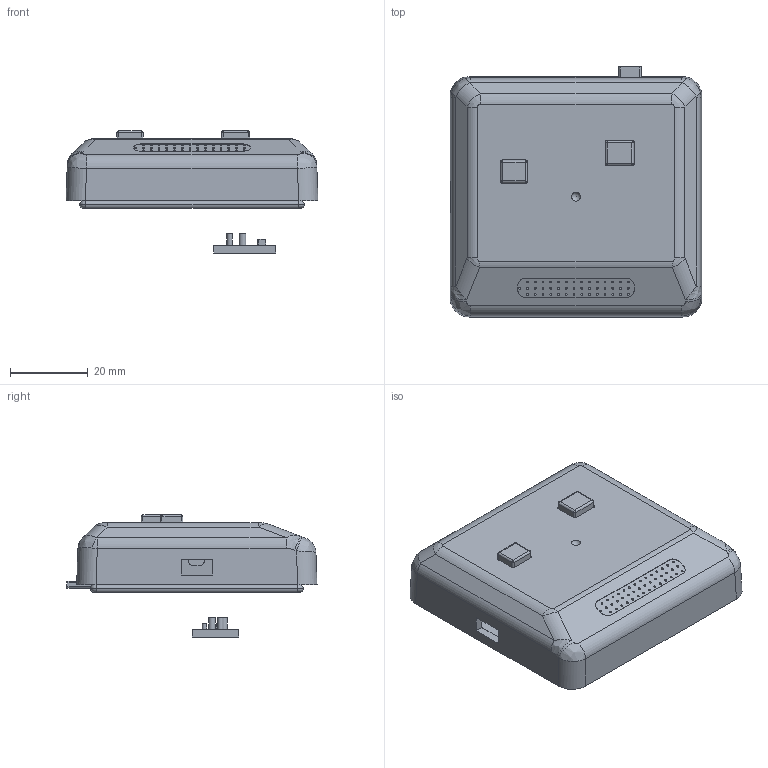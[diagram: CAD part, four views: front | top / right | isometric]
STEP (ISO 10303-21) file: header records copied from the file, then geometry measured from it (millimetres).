
FILE_DESCRIPTION(/* description */ (''),/* implementation_level */ '2;1');
FILE_NAME(/* name */ '教师组样题8.stp',/* time_stamp */ '2023-04-15T13:55:39+08:00',/* author */ (''),/* organization */ (''),/* preprocessor_version */ 'ST-DEVELOPER v16.7',/* originating_system */ 'SIEMENS PLM Software NX 12.0',/* authorisation */ '');
FILE_SCHEMA (('AUTOMOTIVE_DESIGN { 1 0 10303 214 3 1 1 1 }'));
Length unit declared in the file: millimetre
Products named in the file (1): 教师组样题8_stp
Bounding box: 65 x 64.5 x 31.5 mm (x, y, z)
Volume: 20855.8 mm3; surface area: 22948.9 mm2
Topology: 7 solids, 7 shells, 309 faces, 776 edges, 484 vertices
Faces by surface type: cylinder 112, plane 105, bspline 48, extrusion 43, sphere 1
Full cylindrical faces by diameter (mm): 1.195 x1, 1.385 x1, 1.647 x1, 1.717 x1, 3 x4, 5 x4, 6 x4
Entity records: 16341 total; most frequent: CARTESIAN_POINT 9264, ORIENTED_EDGE 1398, DIRECTION 1325, EDGE_CURVE 699, EDGE_LOOP 482, AXIS2_PLACEMENT_3D 481, VERTEX_POINT 475, VECTOR 363
